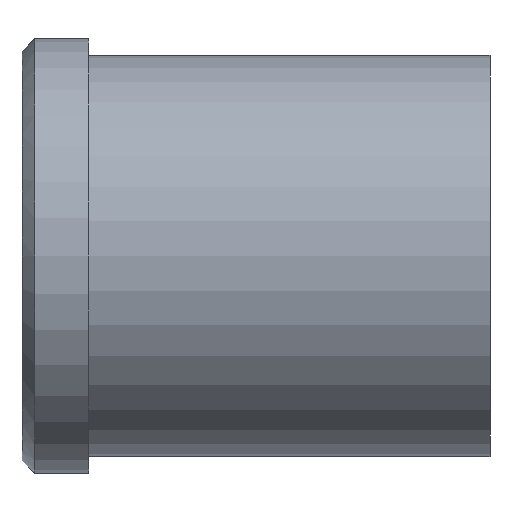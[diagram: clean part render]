
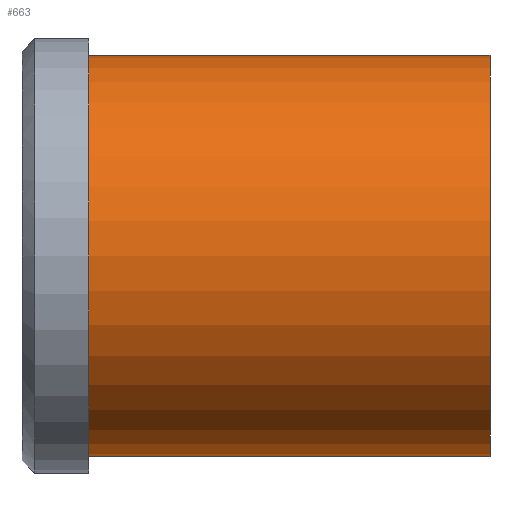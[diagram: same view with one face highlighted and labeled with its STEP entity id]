
A CAD part, front view. The second image highlights one B-rep face of the part: STEP entity #663.
In plain terms, the highlighted cylindrical face has radius 24 mm (diameter 48 mm), a partial arc.
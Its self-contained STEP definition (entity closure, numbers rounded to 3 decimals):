
#501=CARTESIAN_POINT('Vertex',(0.,0.,-24.)) ;
#506=CARTESIAN_POINT('Axis2P3D Location',(0.,0.,0.)) ;
#510=CARTESIAN_POINT('Vertex',(0.,-24.,0.)) ;
#513=CARTESIAN_POINT('Axis2P3D Location',(0.,0.,0.)) ;
#517=CARTESIAN_POINT('Vertex',(0.,0.,24.)) ;
#603=CARTESIAN_POINT('Line Origine',(48.,0.,24.)) ;
#607=CARTESIAN_POINT('Vertex',(48.,0.,24.)) ;
#621=CARTESIAN_POINT('Vertex',(48.,0.,-24.)) ;
#624=CARTESIAN_POINT('Line Origine',(48.,0.,-24.)) ;
#638=CARTESIAN_POINT('Axis2P3D Location',(48.,0.,0.)) ;
#643=CARTESIAN_POINT('Axis2P3D Location',(48.,0.,0.)) ;
#647=CARTESIAN_POINT('Vertex',(48.,-24.,0.)) ;
#650=CARTESIAN_POINT('Axis2P3D Location',(48.,0.,0.)) ;
#507=DIRECTION('Axis2P3D Direction',(1.,0.,-0.)) ;
#514=DIRECTION('Axis2P3D Direction',(1.,0.,-0.)) ;
#604=DIRECTION('Vector Direction',(-1.,0.,0.)) ;
#625=DIRECTION('Vector Direction',(-1.,0.,0.)) ;
#639=DIRECTION('Axis2P3D Direction',(-1.,-0.,-0.)) ;
#640=DIRECTION('Axis2P3D XDirection',(0.,0.,-1.)) ;
#644=DIRECTION('Axis2P3D Direction',(-1.,-0.,-0.)) ;
#651=DIRECTION('Axis2P3D Direction',(-1.,-0.,-0.)) ;
#508=AXIS2_PLACEMENT_3D('Circle Axis2P3D',#506,#507,$) ;
#515=AXIS2_PLACEMENT_3D('Circle Axis2P3D',#513,#514,$) ;
#641=AXIS2_PLACEMENT_3D('Cylinder Axis2P3D',#638,#639,#640) ;
#645=AXIS2_PLACEMENT_3D('Circle Axis2P3D',#643,#644,$) ;
#652=AXIS2_PLACEMENT_3D('Circle Axis2P3D',#650,#651,$) ;
#656=ORIENTED_EDGE('',*,*,#628,.T.) ;
#657=ORIENTED_EDGE('',*,*,#649,.F.) ;
#658=ORIENTED_EDGE('',*,*,#654,.F.) ;
#659=ORIENTED_EDGE('',*,*,#609,.T.) ;
#660=ORIENTED_EDGE('',*,*,#519,.T.) ;
#661=ORIENTED_EDGE('',*,*,#512,.T.) ;
#605=VECTOR('Line Direction',#604,1.) ;
#626=VECTOR('Line Direction',#625,1.) ;
#663=ADVANCED_FACE('353-40X56',(#662),#642,.T.) ;
#509=CIRCLE('generated circle',#508,24.) ;
#516=CIRCLE('generated circle',#515,24.) ;
#646=CIRCLE('generated circle',#645,24.) ;
#653=CIRCLE('generated circle',#652,24.) ;
#642=CYLINDRICAL_SURFACE('generated cylinder',#641,24.) ;
#512=EDGE_CURVE('',#511,#502,#509,.T.) ;
#519=EDGE_CURVE('',#518,#511,#516,.T.) ;
#609=EDGE_CURVE('',#608,#518,#606,.T.) ;
#628=EDGE_CURVE('',#502,#622,#627,.F.) ;
#649=EDGE_CURVE('',#648,#622,#646,.F.) ;
#654=EDGE_CURVE('',#608,#648,#653,.F.) ;
#655=EDGE_LOOP('',(#656,#657,#658,#659,#660,#661)) ;
#662=FACE_OUTER_BOUND('',#655,.T.) ;
#606=LINE('Line',#603,#605) ;
#627=LINE('Line',#624,#626) ;
#502=VERTEX_POINT('',#501) ;
#511=VERTEX_POINT('',#510) ;
#518=VERTEX_POINT('',#517) ;
#608=VERTEX_POINT('',#607) ;
#622=VERTEX_POINT('',#621) ;
#648=VERTEX_POINT('',#647) ;
